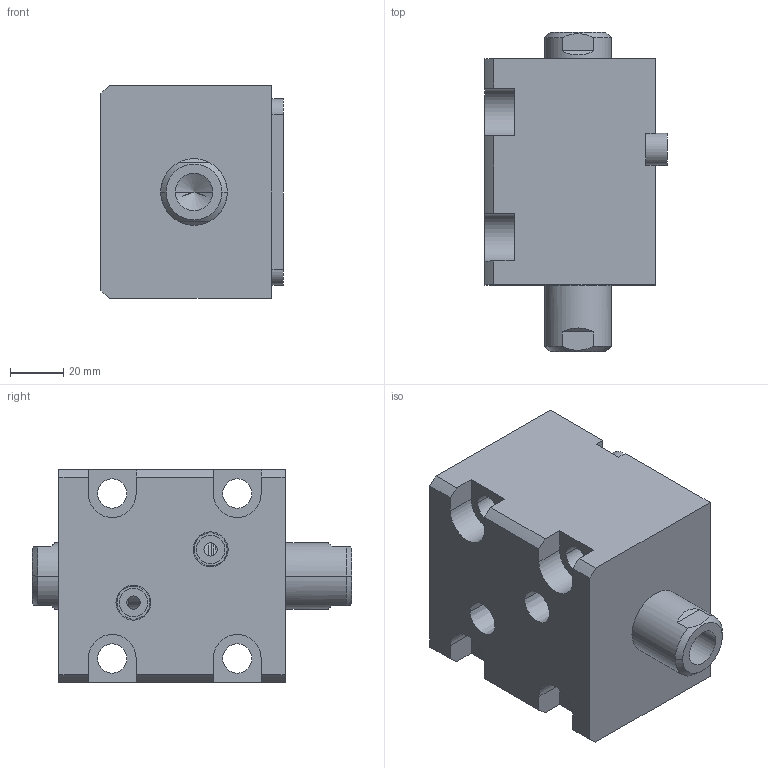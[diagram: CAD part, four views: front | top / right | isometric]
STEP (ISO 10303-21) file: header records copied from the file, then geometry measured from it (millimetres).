
FILE_DESCRIPTION (( 'STEP AP214' ), '1' );
FILE_NAME ('chtb-lw40x15n_asm.STEP', '2018-06-05T00:48:20', ( 'Windows' ), ( 'Microsoft' ), 'SwSTEP 2.0', 'SolidWorks 2015', '' );
FILE_SCHEMA (( 'AUTOMOTIVE_DESIGN' ));
Length unit declared in the file: millimetre
Products named in the file (5): CHTB-SW40X15NHSG; CHTB-SD40QG; CHTB-LW40X15NBT; CHTB-LA40PJ; chtb-lw40x15n_asm
Assembly tree (4 placements, depth 2):
  chtb-lw40x15n_asm
    CHTB-LA40PJ
    CHTB-LW40X15NBT
    CHTB-SD40QG
    CHTB-SW40X15NHSG
Bounding box: 68.5 x 120 x 80 mm (x, y, z)
Volume: 397494.4 mm3; surface area: 80848 mm2
Topology: 4 solids, 4 shells, 172 faces, 462 edges, 304 vertices
Faces by surface type: cylinder 77, plane 52, cone 17, bspline 14, torus 12
Entity records: 10654 total; most frequent: CARTESIAN_POINT 6188, ORIENTED_EDGE 904, DIRECTION 853, EDGE_CURVE 452, AXIS2_PLACEMENT_3D 340, VERTEX_POINT 304, EDGE_LOOP 204, CIRCLE 175
